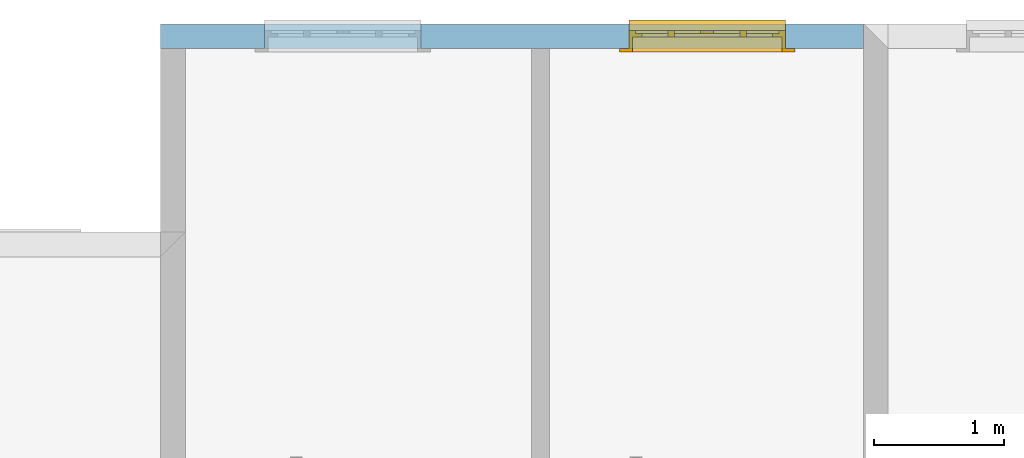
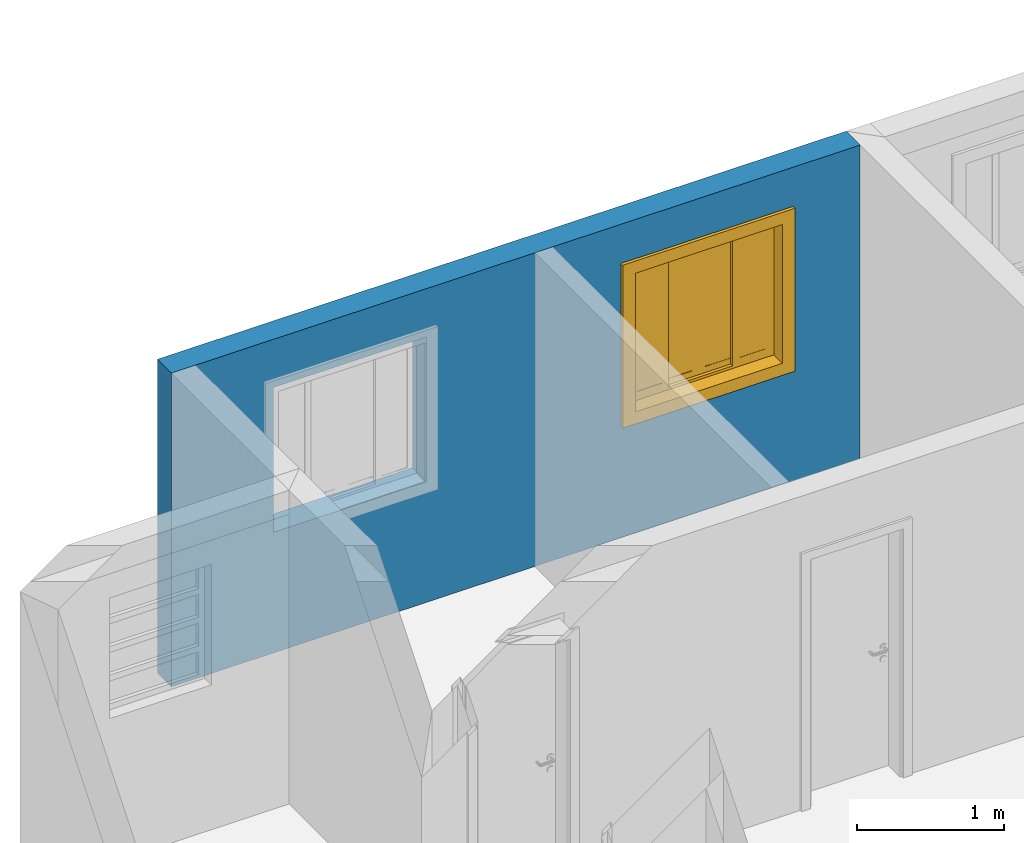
# One storey, part 37 of 47: 1 wall, 1 window, 2 openings.
"""IFC2X3 building model written with IfcOpenShell, lengths in millimetres."""

from ifc_helpers import new_model, entity, si_unit, converted_unit, derived_unit, money_unit, direction, frame, origin_with_axes, origin_2d_with_axis, place, context, subcontext, project, spatial, polyline, rectangle, outline, extrude, open_shell, faceted_brep, surface_model, source, transform, mapped, material, layer, layer_set, layer_usage, type_object, element, fill, save


model = new_model("IFC2X3")

# Units and contexts
model_context = context("Model", 3, precision=0.01, world=origin_with_axes(), true_north=direction((0.0, 1.0)))
body_context = subcontext(model_context, "Body", "Model", "MODEL_VIEW")
ifc_project = project(units=[si_unit("LENGTHUNIT", "METRE", prefix="MILLI"), si_unit("AREAUNIT", "SQUARE_METRE"), si_unit("VOLUMEUNIT", "CUBIC_METRE"), converted_unit("PLANEANGLEUNIT", "DEGREE", entity("IfcPlaneAngleMeasure", 0.0174532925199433), si_unit("PLANEANGLEUNIT", "RADIAN"), dimensions=[0, 0, 0, 0, 0, 0, 0]), money_unit("USD"), converted_unit("TIMEUNIT", "Year", entity("IfcTimeMeasure", 31557600.0), si_unit("TIMEUNIT", "SECOND"), dimensions=[0, 0, 1, 0, 0, 0, 0]), si_unit("MASSUNIT", "GRAM", prefix="KILO"), si_unit("THERMODYNAMICTEMPERATUREUNIT", "DEGREE_CELSIUS"), si_unit("LUMINOUSINTENSITYUNIT", "LUMEN"), si_unit("ENERGYUNIT", "JOULE", prefix="MEGA"), derived_unit("THERMALCONDUCTANCEUNIT", [(si_unit("POWERUNIT", "WATT"), 1), (si_unit("LENGTHUNIT", "METRE"), -1), (si_unit("THERMODYNAMICTEMPERATUREUNIT", "KELVIN"), -1)]), derived_unit("SPECIFICHEATCAPACITYUNIT", [(si_unit("ENERGYUNIT", "JOULE"), 1), (si_unit("MASSUNIT", "GRAM", prefix="KILO"), -1), (si_unit("THERMODYNAMICTEMPERATUREUNIT", "KELVIN"), -1)]), derived_unit("MASSDENSITYUNIT", [(si_unit("MASSUNIT", "GRAM", prefix="KILO"), 1), (si_unit("VOLUMEUNIT", "CUBIC_METRE"), -1)])], contexts=[model_context])

# Site, building, storey
site_placement = place(None, origin_with_axes())
site = spatial("IfcSite", under=ifc_project, at=site_placement, Name="Local", CompositionType="ELEMENT")
building_placement = place(site_placement, origin_with_axes())
building = spatial("IfcBuilding", under=site, at=building_placement, Name="Construção", CompositionType="ELEMENT")
storey_placement = place(building_placement, origin_with_axes())
storey = spatial("IfcBuildingStorey", under=building, at=storey_placement, Name="Pavimento Tipo", CompositionType="ELEMENT", Elevation=0.0)

# Wall, openings, window
ifc_material = material(Name="Concreto - Estrutural")
ifc_layer = layer(ifc_material, 190.0, ventilated="UNKNOWN")
ifc_layer_set = layer_set([ifc_layer], Name="Concreto - Estrutural 190")
ifc_layer_usage = layer_usage(ifc_layer_set, "AXIS2", "POSITIVE", -190.0)
wall_type = type_object("IfcWallType", Name="Concreto - Estrutural 190", PredefinedType="NOTDEFINED")
wall_placement = place(storey_placement, frame((-4547.433002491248, 19186.98141771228, 0.0), z_axis=(0.0, 0.0, 1.0), x_axis=(1.0, 0.0, 0.0)))
wall = element("IfcWallStandardCase", 1, at=wall_placement, inside=storey, type_object=wall_type, material=ifc_layer_usage, Name="Apartamento 2 - Parede-004", context=body_context, shape_type="SweptSolid", body=[
    extrude(outline(polyline([(0.0, -190.0000000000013), (5399.999999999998, -190.0000000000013), (5399.999999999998, 0.0), (0.0, 0.0), (0.0, -190.0000000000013)])), origin_with_axes(), (0.0, 0.0, 1.0), 2600.0),
])
opening_1_placement = place(wall_placement, frame((4199.999999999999, 0.0, 1000.0), z_axis=(0.0, 0.0, 1.0), x_axis=(1.0, 0.0, 0.0)))
opening_1 = element("IfcOpeningElement", 2, at=opening_1_placement, cuts=wall, Name="Apartamento 2 - J06", context=body_context, shape_type="SweptSolid", body=[
    extrude(rectangle(XDim=1200.0, YDim=1200.0, at=origin_2d_with_axis()), frame((0.0, -50.00000000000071, 600.0000000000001), z_axis=(0.0, -1.0, 0.0), x_axis=(-1.0, 0.0, 0.0)), (0.0, 0.0, 1.0), 330.0),
    extrude(rectangle(XDim=1200.0, YDim=1200.0, at=origin_2d_with_axis()), frame((0.0, -50.00000000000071, 600.0000000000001), z_axis=(0.0, 1.0, 0.0), x_axis=(-1.0, 0.0, 0.0)), (0.0, 0.0, 1.0), 240.0),
    extrude(rectangle(XDim=1350.0, YDim=1350.0, at=origin_2d_with_axis()), frame((0.0, -190.0000000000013, 600.0000000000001), z_axis=(0.0, -1.0, 0.0), x_axis=(-1.0, 0.0, 0.0)), (0.0, 0.0, 1.0), 240.0),
])
opening_2_placement = place(wall_placement, frame((1400.0, 0.0, 1000.0), z_axis=(0.0, 0.0, 1.0), x_axis=(1.0, 0.0, 0.0)))
element("IfcOpeningElement", 3, at=opening_2_placement, cuts=wall, Name="Apartamento 2 - J05", context=body_context, shape_type="SweptSolid", body=[
    extrude(rectangle(XDim=1200.0, YDim=1200.0, at=origin_2d_with_axis()), frame((0.0, -50.00000000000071, 600.0000000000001), z_axis=(0.0, 1.0, 0.0), x_axis=(1.0, 0.0, 0.0)), (0.0, 0.0, -1.0), 330.0),
    extrude(rectangle(XDim=1200.0, YDim=1200.0, at=origin_2d_with_axis()), frame((0.0, -50.00000000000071, 600.0000000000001), z_axis=(0.0, -1.0, 0.0), x_axis=(1.0, 0.0, 0.0)), (0.0, 0.0, -1.0), 240.0),
    extrude(rectangle(XDim=1350.0, YDim=1350.0, at=origin_2d_with_axis()), frame((0.0, -190.0000000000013, 600.0000000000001), z_axis=(0.0, 1.0, 0.0), x_axis=(1.0, 0.0, 0.0)), (0.0, 0.0, -1.0), 240.0),
])
window_style = type_object("IfcWindowStyle", Name="Janela de Correr 4-Folhas 27", ConstructionType="NOTDEFINED", OperationType="USERDEFINED", ParameterTakesPrecedence=False, Sizeable=False)
shared_shape = source(origin_with_axes(), body_context, "Body", "SurfaceModel", [
    faceted_brep([(600.0, 0.0, 5.0), (600.0, 50.0, 5.000000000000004), (600.0, 50.0, 27.37961103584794), (600.0, 0.0, 30.0), (-600.0, 0.0, 5.0), (-600.0, 50.0, 5.000000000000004), (-600.0, 80.0, 5.000000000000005), (600.0, 80.0, 5.000000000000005), (600.0, 80.0, 25.8073776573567), (-600.0, 80.0, 25.8073776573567), (-600.0, 50.0, 27.37961103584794), (-600.0, 0.0, 30.0)], [[[0, 1, 2, 3]], [[0, 4, 5, 6, 7, 1]], [[1, 7, 8, 2]], [[3, 2, 8, 9, 10, 11]], [[4, 0, 3, 11]], [[5, 4, 11, 10]], [[6, 5, 10, 9]], [[7, 6, 9, 8]]]),
    faceted_brep([(600.0, 0.0, 0.0), (600.0, 50.0, 0.0), (600.0, 50.0, 5.0), (600.0, 0.0, 5.0), (-600.0, 0.0, 0.0), (-600.0, 50.0, 0.0), (-600.0, 50.0, 5.0), (-600.0, 0.0, 5.0)], [[[0, 1, 2, 3]], [[0, 4, 5, 1]], [[1, 5, 6, 2]], [[3, 2, 6, 7]], [[4, 0, 3, 7]], [[5, 4, 7, 6]]]),
    faceted_brep([(600.0, -50.0, 0.0), (600.0, -140.0, 0.0), (-600.0, -140.0, 0.0), (-600.0, -50.0, 0.0), (600.0, -50.00000000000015, 1200.0), (600.0, -140.0000000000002, 1200.0), (-600.0, -140.0000000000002, 1200.0), (575.0, -140.0, 24.99999999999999), (-575.0, -140.0, 24.99999999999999), (-575.0, -140.0000000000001, 1175.0), (575.0, -140.0000000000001, 1175.0), (-600.0, -50.00000000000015, 1200.0), (575.0, -50.0, 24.99999999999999), (575.0, -50.00000000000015, 1175.0), (-575.0, -50.00000000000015, 1175.0), (-575.0, -50.0, 24.99999999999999)], [[[0, 1, 2, 3]], [[4, 5, 1, 0]], [[1, 5, 6, 2], [7, 8, 9, 10]], [[3, 2, 6, 11]], [[0, 3, 11, 4], [12, 13, 14, 15]], [[11, 6, 5, 4]], [[15, 8, 7, 12]], [[14, 9, 8, 15]], [[13, 10, 9, 14]], [[12, 7, 10, 13]]]),
    faceted_brep([(674.9999999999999, -165.0, -75.00000000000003), (575.0, -165.0, 24.99999999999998), (575.0, -140.0, 24.99999999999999), (674.9999999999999, -140.0, -75.00000000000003), (674.9999999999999, -165.0000000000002, 1275.0), (575.0, -165.0000000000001, 1175.0), (575.0, -140.0000000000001, 1175.0), (674.9999999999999, -140.0000000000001, 1275.0)], [[[0, 1, 2, 3]], [[0, 4, 5, 1]], [[1, 5, 6, 2]], [[3, 2, 6, 7]], [[4, 0, 3, 7]], [[5, 4, 7, 6]]]),
    faceted_brep([(-674.9999999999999, -165.0000000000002, 1275.0), (-575.0, -165.0000000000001, 1175.0), (-575.0, -140.0000000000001, 1175.0), (-674.9999999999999, -140.0000000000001, 1275.0), (-674.9999999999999, -165.0, -75.00000000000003), (-575.0, -165.0, 24.99999999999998), (-575.0, -140.0, 24.99999999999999), (-674.9999999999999, -140.0, -75.00000000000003)], [[[0, 1, 2, 3]], [[0, 4, 5, 1]], [[1, 5, 6, 2]], [[3, 2, 6, 7]], [[4, 0, 3, 7]], [[5, 4, 7, 6]]]),
    faceted_brep([(-674.9999999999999, -165.0, -75.00000000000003), (-575.0, -165.0, 24.99999999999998), (-575.0, -140.0, 24.99999999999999), (-674.9999999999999, -140.0, -75.00000000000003), (674.9999999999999, -165.0, -75.00000000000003), (575.0, -165.0, 24.99999999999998), (575.0, -140.0, 24.99999999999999), (674.9999999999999, -140.0, -75.00000000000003)], [[[0, 1, 2, 3]], [[0, 4, 5, 1]], [[1, 5, 6, 2]], [[3, 2, 6, 7]], [[4, 0, 3, 7]], [[5, 4, 7, 6]]]),
    faceted_brep([(674.9999999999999, -165.0000000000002, 1275.0), (575.0, -165.0000000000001, 1175.0), (575.0, -140.0000000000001, 1175.0), (674.9999999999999, -140.0000000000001, 1275.0), (-674.9999999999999, -165.0000000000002, 1275.0), (-575.0, -165.0000000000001, 1175.0), (-575.0, -140.0000000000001, 1175.0), (-674.9999999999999, -140.0000000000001, 1275.0)], [[[0, 1, 2, 3]], [[0, 4, 5, 1]], [[1, 5, 6, 2]], [[3, 2, 6, 7]], [[4, 0, 3, 7]], [[5, 4, 7, 6]]]),
    faceted_brep([(552.9999999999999, -50.00000000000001, 47.0), (552.9999999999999, -50.00000000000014, 1153.0), (552.9999999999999, 0.0, 1153.0), (552.9999999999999, 0.0, 47.00000000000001), (600.0, -50.00000000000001, 47.0), (600.0, -50.00000000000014, 1153.0), (600.0, 0.0, 1153.0), (600.0, 0.0, 47.00000000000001)], [[[0, 1, 2, 3]], [[0, 4, 5, 1]], [[1, 5, 6, 2]], [[3, 2, 6, 7]], [[4, 0, 3, 7]], [[5, 4, 7, 6]]]),
    faceted_brep([(-600.0, -50.00000000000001, 47.0), (-600.0, -50.00000000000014, 1153.0), (-600.0, 0.0, 1153.0), (-600.0, 0.0, 47.00000000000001), (-552.9999999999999, -50.00000000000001, 47.0), (-552.9999999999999, -50.00000000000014, 1153.0), (-552.9999999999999, 0.0, 1153.0), (-552.9999999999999, 0.0, 47.00000000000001)], [[[0, 1, 2, 3]], [[0, 4, 5, 1]], [[1, 5, 6, 2]], [[3, 2, 6, 7]], [[4, 0, 3, 7]], [[5, 4, 7, 6]]]),
    faceted_brep([(-600.0, -50.00000000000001, 47.0), (-552.9999999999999, -50.00000000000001, 47.0), (-552.9999999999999, 0.0, 47.00000000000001), (-600.0, 0.0, 47.00000000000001), (-600.0, -50.0, 0.0), (600.0, -50.0, 0.0), (600.0, -50.00000000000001, 47.0), (552.9999999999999, -50.00000000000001, 47.0), (552.9999999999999, 0.0, 47.00000000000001), (600.0, 0.0, 47.00000000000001), (600.0, 0.0, 0.0), (-600.0, 0.0, 0.0)], [[[0, 1, 2, 3]], [[0, 4, 5, 6, 7, 1]], [[1, 7, 8, 2]], [[3, 2, 8, 9, 10, 11]], [[4, 0, 3, 11]], [[5, 4, 11, 10]], [[6, 5, 10, 9]], [[7, 6, 9, 8]]]),
    faceted_brep([(-600.0, -50.00000000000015, 1200.0), (600.0, -50.00000000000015, 1200.0), (600.0, 0.0, 1200.0), (-600.0, 0.0, 1200.0), (-600.0, -50.00000000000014, 1153.0), (-552.9999999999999, -50.00000000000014, 1153.0), (-276.5, -50.00000000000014, 1153.0), (0.0, -50.00000000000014, 1153.0), (276.4999999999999, -50.00000000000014, 1153.0), (552.9999999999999, -50.00000000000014, 1153.0), (600.0, -50.00000000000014, 1153.0), (600.0, 0.0, 1153.0), (552.9999999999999, 0.0, 1153.0), (276.4999999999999, 0.0, 1153.0), (0.0, 0.0, 1153.0), (-276.5, 0.0, 1153.0), (-552.9999999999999, 0.0, 1153.0), (-600.0, 0.0, 1153.0)], [[[0, 1, 2, 3]], [[0, 4, 5, 6, 7, 8, 9, 10, 1]], [[1, 10, 11, 2]], [[3, 2, 11, 12, 13, 14, 15, 16, 17]], [[4, 0, 3, 17]], [[5, 4, 17, 16]], [[6, 5, 16, 15]], [[7, 6, 15, 14]], [[8, 7, 14, 13]], [[9, 8, 13, 12]], [[10, 9, 12, 11]]]),
    faceted_brep([(502.9999999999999, -50.00000000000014, 1103.0), (552.9999999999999, -50.00000000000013, 1103.0), (552.9999999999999, -25.00000000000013, 1103.0), (502.9999999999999, -25.00000000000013, 1103.0), (502.9999999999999, -50.00000000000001, 97.0), (552.9999999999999, -50.00000000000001, 97.0), (552.9999999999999, -25.0, 97.0), (502.9999999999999, -25.00000000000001, 97.0)], [[[0, 1, 2, 3]], [[0, 4, 5, 1]], [[1, 5, 6, 2]], [[3, 2, 6, 7]], [[4, 0, 3, 7]], [[5, 4, 7, 6]]]),
    faceted_brep([(301.4999999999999, -50.00000000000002, 97.0), (251.4999999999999, -50.00000000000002, 97.0), (251.4999999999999, -25.00000000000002, 97.0), (301.4999999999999, -25.00000000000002, 97.0), (301.4999999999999, -50.00000000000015, 1103.0), (251.4999999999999, -50.00000000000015, 1103.0), (251.4999999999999, -25.00000000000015, 1103.0), (301.4999999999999, -25.00000000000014, 1103.0)], [[[0, 1, 2, 3]], [[0, 4, 5, 1]], [[1, 5, 6, 2]], [[3, 2, 6, 7]], [[4, 0, 3, 7]], [[5, 4, 7, 6]]]),
    faceted_brep([(251.4999999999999, -50.00000000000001, 47.0), (251.4999999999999, -50.00000000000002, 97.0), (251.4999999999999, -25.00000000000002, 97.0), (251.4999999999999, -25.00000000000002, 47.0), (552.9999999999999, -50.0, 47.0), (552.9999999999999, -50.00000000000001, 97.0), (502.9999999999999, -50.00000000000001, 97.0), (301.4999999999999, -50.00000000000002, 97.0), (301.4999999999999, -25.00000000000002, 97.0), (502.9999999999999, -25.00000000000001, 97.0), (552.9999999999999, -25.0, 97.0), (552.9999999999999, -25.0, 47.0)], [[[0, 1, 2, 3]], [[0, 4, 5, 6, 7, 1]], [[1, 7, 8, 2]], [[3, 2, 8, 9, 10, 11]], [[4, 0, 3, 11]], [[5, 4, 11, 10]], [[6, 5, 10, 9]], [[7, 6, 9, 8]]]),
    faceted_brep([(552.9999999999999, -50.00000000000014, 1153.0), (552.9999999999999, -50.00000000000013, 1103.0), (552.9999999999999, -25.00000000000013, 1103.0), (552.9999999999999, -25.00000000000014, 1153.0), (251.4999999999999, -50.00000000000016, 1153.0), (251.4999999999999, -50.00000000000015, 1103.0), (301.4999999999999, -50.00000000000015, 1103.0), (502.9999999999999, -50.00000000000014, 1103.0), (502.9999999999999, -25.00000000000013, 1103.0), (301.4999999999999, -25.00000000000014, 1103.0), (251.4999999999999, -25.00000000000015, 1103.0), (251.4999999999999, -25.00000000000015, 1153.0)], [[[0, 1, 2, 3]], [[0, 4, 5, 6, 7, 1]], [[1, 7, 8, 2]], [[3, 2, 8, 9, 10, 11]], [[4, 0, 3, 11]], [[5, 4, 11, 10]], [[6, 5, 10, 9]], [[7, 6, 9, 8]]]),
    surface_model("IfcShellBasedSurfaceModel", [(502.9999999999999, -47.50000000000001, 97.0), (502.9999999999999, -47.50000000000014, 1103.0), (301.4999999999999, -47.50000000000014, 1103.0), (301.4999999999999, -47.50000000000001, 97.0)], [open_shell([[[0, 1, 2, 3]]])]),
    surface_model("IfcShellBasedSurfaceModel", [(502.9999999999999, -27.50000000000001, 97.0), (301.4999999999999, -27.50000000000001, 97.0), (301.4999999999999, -27.50000000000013, 1103.0), (502.9999999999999, -27.50000000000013, 1103.0)], [open_shell([[[0, 1, 2, 3]]])]),
    faceted_brep([(251.4999999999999, -25.00000000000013, 1103.0), (301.4999999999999, -25.00000000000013, 1103.0), (301.4999999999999, 0.0, 1103.0), (251.4999999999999, 0.0, 1103.0), (251.4999999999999, -25.00000000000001, 97.0), (301.4999999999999, -25.0, 97.0), (301.4999999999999, 0.0, 97.0), (251.4999999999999, 0.0, 97.0)], [[[0, 1, 2, 3]], [[0, 4, 5, 1]], [[1, 5, 6, 2]], [[3, 2, 6, 7]], [[4, 0, 3, 7]], [[5, 4, 7, 6]]]),
    faceted_brep([(49.99999999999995, -25.00000000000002, 97.0), (0.0, -25.00000000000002, 97.0), (0.0, 0.0, 97.0), (49.99999999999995, 0.0, 97.0), (49.99999999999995, -25.00000000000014, 1103.0), (0.0, -25.00000000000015, 1103.0), (0.0, 0.0, 1103.0), (49.99999999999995, 0.0, 1103.0)], [[[0, 1, 2, 3]], [[0, 4, 5, 1]], [[1, 5, 6, 2]], [[3, 2, 6, 7]], [[4, 0, 3, 7]], [[5, 4, 7, 6]]]),
    faceted_brep([(0.0, -25.00000000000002, 47.0), (0.0, -25.00000000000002, 97.0), (0.0, 0.0, 97.0), (0.0, 0.0, 47.0), (301.4999999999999, -25.0, 47.0), (301.4999999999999, -25.0, 97.0), (251.4999999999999, -25.00000000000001, 97.0), (49.99999999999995, -25.00000000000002, 97.0), (49.99999999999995, 0.0, 97.0), (251.4999999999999, 0.0, 97.0), (301.4999999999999, 0.0, 97.0), (301.4999999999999, 0.0, 47.0)], [[[0, 1, 2, 3]], [[0, 4, 5, 6, 7, 1]], [[1, 7, 8, 2]], [[3, 2, 8, 9, 10, 11]], [[4, 0, 3, 11]], [[5, 4, 11, 10]], [[6, 5, 10, 9]], [[7, 6, 9, 8]]]),
    faceted_brep([(301.4999999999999, -25.00000000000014, 1153.0), (301.4999999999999, -25.00000000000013, 1103.0), (301.4999999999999, 0.0, 1103.0), (301.4999999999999, 0.0, 1153.0), (0.0, -25.00000000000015, 1153.0), (0.0, -25.00000000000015, 1103.0), (49.99999999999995, -25.00000000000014, 1103.0), (251.4999999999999, -25.00000000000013, 1103.0), (251.4999999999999, 0.0, 1103.0), (49.99999999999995, 0.0, 1103.0), (0.0, 0.0, 1103.0), (0.0, 0.0, 1153.0)], [[[0, 1, 2, 3]], [[0, 4, 5, 6, 7, 1]], [[1, 7, 8, 2]], [[3, 2, 8, 9, 10, 11]], [[4, 0, 3, 11]], [[5, 4, 11, 10]], [[6, 5, 10, 9]], [[7, 6, 9, 8]]]),
    surface_model("IfcShellBasedSurfaceModel", [(251.4999999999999, -22.50000000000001, 97.0), (251.4999999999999, -22.50000000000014, 1103.0), (49.99999999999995, -22.50000000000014, 1103.0), (49.99999999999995, -22.50000000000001, 97.0)], [open_shell([[[0, 1, 2, 3]]])]),
    surface_model("IfcShellBasedSurfaceModel", [(251.4999999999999, -2.500000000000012, 97.0), (49.99999999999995, -2.500000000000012, 97.0), (49.99999999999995, -2.500000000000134, 1103.0), (251.4999999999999, -2.500000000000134, 1103.0)], [open_shell([[[0, 1, 2, 3]]])]),
    faceted_brep([(-50.00000000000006, -25.00000000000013, 1103.0), (0.0, -25.00000000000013, 1103.0), (0.0, 0.0, 1103.0), (-50.00000000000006, 0.0, 1103.0), (-50.00000000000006, -25.00000000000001, 97.0), (0.0, -25.0, 97.0), (0.0, 0.0, 97.0), (-50.00000000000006, 0.0, 97.0)], [[[0, 1, 2, 3]], [[0, 4, 5, 1]], [[1, 5, 6, 2]], [[3, 2, 6, 7]], [[4, 0, 3, 7]], [[5, 4, 7, 6]]]),
    faceted_brep([(-251.5000000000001, -25.00000000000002, 97.0), (-301.5000000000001, -25.00000000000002, 97.0), (-301.5000000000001, 0.0, 97.0), (-251.5000000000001, 0.0, 97.0), (-251.5000000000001, -25.00000000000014, 1103.0), (-301.5000000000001, -25.00000000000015, 1103.0), (-301.5000000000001, 0.0, 1103.0), (-251.5000000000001, 0.0, 1103.0)], [[[0, 1, 2, 3]], [[0, 4, 5, 1]], [[1, 5, 6, 2]], [[3, 2, 6, 7]], [[4, 0, 3, 7]], [[5, 4, 7, 6]]]),
    faceted_brep([(-301.5000000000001, -25.00000000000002, 47.0), (-301.5000000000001, -25.00000000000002, 97.0), (-301.5000000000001, 0.0, 97.0), (-301.5000000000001, 0.0, 47.0), (0.0, -25.0, 47.0), (0.0, -25.0, 97.0), (-50.00000000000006, -25.00000000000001, 97.0), (-251.5000000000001, -25.00000000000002, 97.0), (-251.5000000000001, 0.0, 97.0), (-50.00000000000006, 0.0, 97.0), (0.0, 0.0, 97.0), (0.0, 0.0, 47.0)], [[[0, 1, 2, 3]], [[0, 4, 5, 6, 7, 1]], [[1, 7, 8, 2]], [[3, 2, 8, 9, 10, 11]], [[4, 0, 3, 11]], [[5, 4, 11, 10]], [[6, 5, 10, 9]], [[7, 6, 9, 8]]]),
    faceted_brep([(0.0, -25.00000000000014, 1153.0), (0.0, -25.00000000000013, 1103.0), (0.0, 0.0, 1103.0), (0.0, 0.0, 1153.0), (-301.5000000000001, -25.00000000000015, 1153.0), (-301.5000000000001, -25.00000000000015, 1103.0), (-251.5000000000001, -25.00000000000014, 1103.0), (-50.00000000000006, -25.00000000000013, 1103.0), (-50.00000000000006, 0.0, 1103.0), (-251.5000000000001, 0.0, 1103.0), (-301.5000000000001, 0.0, 1103.0), (-301.5000000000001, 0.0, 1153.0)], [[[0, 1, 2, 3]], [[0, 4, 5, 6, 7, 1]], [[1, 7, 8, 2]], [[3, 2, 8, 9, 10, 11]], [[4, 0, 3, 11]], [[5, 4, 11, 10]], [[6, 5, 10, 9]], [[7, 6, 9, 8]]]),
    surface_model("IfcShellBasedSurfaceModel", [(-50.00000000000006, -22.50000000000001, 97.0), (-50.00000000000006, -22.50000000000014, 1103.0), (-251.5000000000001, -22.50000000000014, 1103.0), (-251.5000000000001, -22.50000000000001, 97.0)], [open_shell([[[0, 1, 2, 3]]])]),
    surface_model("IfcShellBasedSurfaceModel", [(-50.00000000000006, -2.500000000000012, 97.0), (-251.5000000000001, -2.500000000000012, 97.0), (-251.5000000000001, -2.500000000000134, 1103.0), (-50.00000000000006, -2.500000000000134, 1103.0)], [open_shell([[[0, 1, 2, 3]]])]),
    faceted_brep([(-301.5000000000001, -50.00000000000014, 1103.0), (-251.5000000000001, -50.00000000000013, 1103.0), (-251.5000000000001, -25.00000000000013, 1103.0), (-301.5000000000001, -25.00000000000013, 1103.0), (-301.5000000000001, -50.00000000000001, 97.0), (-251.5000000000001, -50.00000000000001, 97.0), (-251.5000000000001, -25.0, 97.0), (-301.5000000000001, -25.00000000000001, 97.0)], [[[0, 1, 2, 3]], [[0, 4, 5, 1]], [[1, 5, 6, 2]], [[3, 2, 6, 7]], [[4, 0, 3, 7]], [[5, 4, 7, 6]]]),
    faceted_brep([(-503.0, -50.00000000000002, 97.0), (-553.0, -50.00000000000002, 97.0), (-553.0, -25.00000000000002, 97.0), (-503.0, -25.00000000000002, 97.0), (-503.0, -50.00000000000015, 1103.0), (-553.0, -50.00000000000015, 1103.0), (-553.0, -25.00000000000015, 1103.0), (-503.0, -25.00000000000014, 1103.0)], [[[0, 1, 2, 3]], [[0, 4, 5, 1]], [[1, 5, 6, 2]], [[3, 2, 6, 7]], [[4, 0, 3, 7]], [[5, 4, 7, 6]]]),
    faceted_brep([(-553.0, -50.00000000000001, 47.0), (-553.0, -50.00000000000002, 97.0), (-553.0, -25.00000000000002, 97.0), (-553.0, -25.00000000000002, 47.0), (-251.5000000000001, -50.0, 47.0), (-251.5000000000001, -50.00000000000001, 97.0), (-301.5000000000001, -50.00000000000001, 97.0), (-503.0, -50.00000000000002, 97.0), (-503.0, -25.00000000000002, 97.0), (-301.5000000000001, -25.00000000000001, 97.0), (-251.5000000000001, -25.0, 97.0), (-251.5000000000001, -25.0, 47.0)], [[[0, 1, 2, 3]], [[0, 4, 5, 6, 7, 1]], [[1, 7, 8, 2]], [[3, 2, 8, 9, 10, 11]], [[4, 0, 3, 11]], [[5, 4, 11, 10]], [[6, 5, 10, 9]], [[7, 6, 9, 8]]]),
    faceted_brep([(-251.5000000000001, -50.00000000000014, 1153.0), (-251.5000000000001, -50.00000000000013, 1103.0), (-251.5000000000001, -25.00000000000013, 1103.0), (-251.5000000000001, -25.00000000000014, 1153.0), (-553.0, -50.00000000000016, 1153.0), (-553.0, -50.00000000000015, 1103.0), (-503.0, -50.00000000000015, 1103.0), (-301.5000000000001, -50.00000000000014, 1103.0), (-301.5000000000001, -25.00000000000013, 1103.0), (-503.0, -25.00000000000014, 1103.0), (-553.0, -25.00000000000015, 1103.0), (-553.0, -25.00000000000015, 1153.0)], [[[0, 1, 2, 3]], [[0, 4, 5, 6, 7, 1]], [[1, 7, 8, 2]], [[3, 2, 8, 9, 10, 11]], [[4, 0, 3, 11]], [[5, 4, 11, 10]], [[6, 5, 10, 9]], [[7, 6, 9, 8]]]),
    surface_model("IfcShellBasedSurfaceModel", [(-301.5, -47.50000000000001, 97.0), (-301.5, -47.50000000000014, 1103.0), (-503.0, -47.50000000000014, 1103.0), (-503.0, -47.50000000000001, 97.0)], [open_shell([[[0, 1, 2, 3]]])]),
    surface_model("IfcShellBasedSurfaceModel", [(-301.5, -27.50000000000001, 97.0), (-503.0, -27.50000000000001, 97.0), (-503.0, -27.50000000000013, 1103.0), (-301.5, -27.50000000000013, 1103.0)], [open_shell([[[0, 1, 2, 3]]])]),
])
window_placement = place(opening_1_placement, frame((-600.0, 0.0, 0.0), z_axis=(0.0, 0.0, 1.0), x_axis=(1.0, 0.0, 0.0)))
window = element("IfcWindow", 4, at=window_placement, inside=storey, type_object=window_style, Name="Apartamento 2 - J06", ObjectType="WINDOW", OverallHeight=1200.0, OverallWidth=1200.0, context=body_context, shape_type="MappedRepresentation", body=[
    mapped(shared_shape, transform((600.0, -50.00000000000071, 0.0))),
])
fill(opening_1, window)

save(model, "model.ifc")
